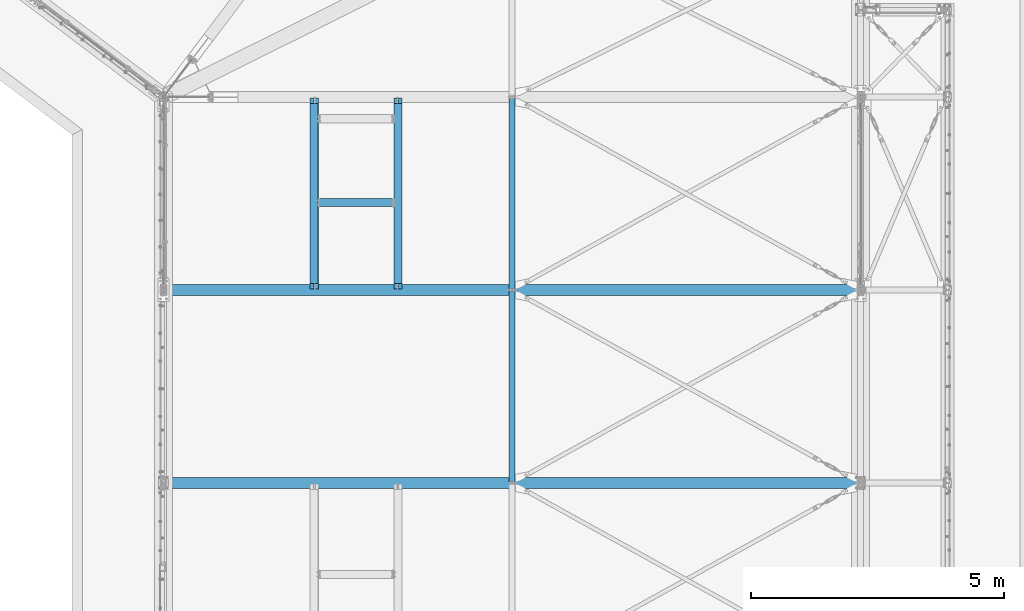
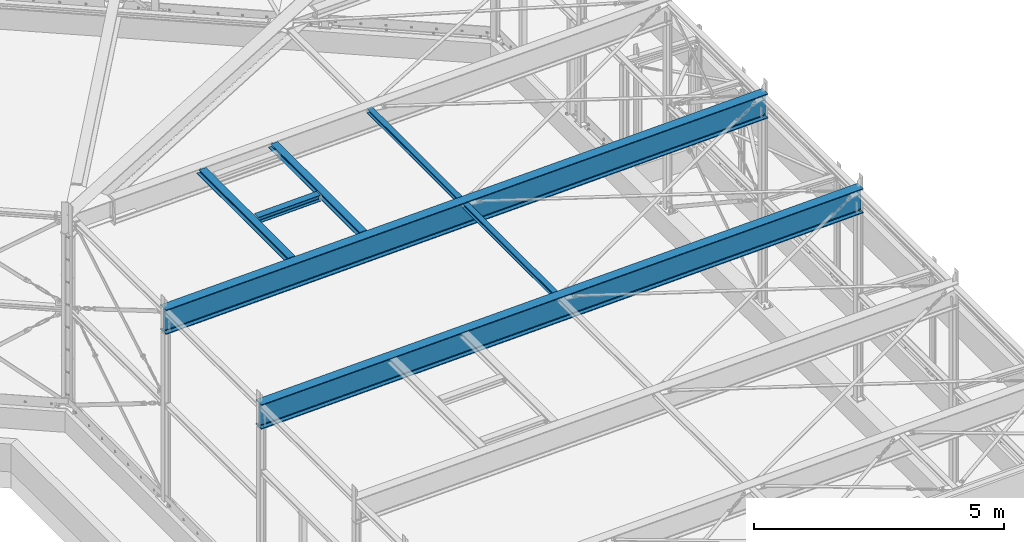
# One storey, part 15 of 476: 4 beams, 3 members, 56 openings.
"""IFC2X3 building model written with IfcOpenShell, lengths in millimetres."""

from ifc_helpers import new_model, entity, si_unit, converted_unit, point, frame, frame_2d, origin, origin_with_axes, origin_2d, origin_2d_with_axis, place, context, project, spatial, circle_curve, line_curve, trimmed, segment, composite_curve, circle, i_section, outline, extrude, clip, halfspace, material, element, save


model = new_model("IFC2X3")

# Units and contexts
model_context = context("Model", 3, precision=1e-09, world=origin_with_axes())
ifc_project = project(units=[si_unit("LENGTHUNIT", "METRE", prefix="MILLI"), si_unit("AREAUNIT", "SQUARE_METRE"), si_unit("VOLUMEUNIT", "CUBIC_METRE"), converted_unit("PLANEANGLEUNIT", "DEGREE", entity("IfcPlaneAngleMeasure", 0.01745329), si_unit("PLANEANGLEUNIT", "RADIAN"), dimensions=[0, 0, 0, 0, 0, 0, 0])], contexts=[model_context])

# Site, building, storey
site_placement = place(None, origin_with_axes())
site = spatial("IfcSite", under=ifc_project, at=site_placement, Name="mKR Teilneubau & Sanierung BA1 - Ostfildern", CompositionType="ELEMENT")
building_placement = place(site_placement, origin_with_axes())
building = spatial("IfcBuilding", under=site, at=building_placement, Name="Struktur 1", CompositionType="ELEMENT")
storey_placement = place(building_placement, origin_with_axes())
storey = spatial("IfcBuildingStorey", under=building, at=storey_placement, Name="Default Storey", CompositionType="ELEMENT", Elevation=0.0)

# Member, openings
ifc_material = material(Name="S235JR")
member_1_placement = place(None, frame((7671.078857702, -13585.67387897, 4959.248116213), z_axis=(-0.999548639, 0.0, -0.030041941), x_axis=(0.0, -1.0, 0.0)))
member_1 = element("IfcMember", 1, at=member_1_placement, inside=storey, material=ifc_material, Name="-", ObjectType="-", context=model_context, shape_type="Clipping", body=[
    clip(clip(extrude(i_section(OverallWidth=220.0, OverallDepth=600.0, WebThickness=12.0, FlangeThickness=19.0, FilletRadius=24.0, at=origin_2d()), origin(), (0.0, 0.0, -1.0), 14725.706361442), halfspace(frame((-13585.67387897, -4970.169003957, -288.847755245), z_axis=(0.0, -0.030041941, -0.999548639), x_axis=(-1.0, 0.0, 0.0)), True)), halfspace(frame((-13585.67387897, -5388.142475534, -14195.565970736), z_axis=(0.0, 0.030041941, 0.999548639), x_axis=(1.0, 0.0, 0.0)), True)),
])
opening_1_placement = place(member_1_placement, frame((-6.5, 183.025662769, -7373.369944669), z_axis=(1.0, 0.0, 0.0), x_axis=(0.0, 1.0, -2.2474e-05)))
element("IfcOpeningElement", 2, at=opening_1_placement, cuts=member_1, ObjectType="Opening", context=model_context, shape_type="SweptSolid", body=[
    extrude(circle(Radius=7.001, at=origin_2d_with_axis()), origin(), (0.0, 0.0, 1.0), 13.0),
])
opening_2_placement = place(member_1_placement, frame((-6.5, 183.024539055, -7433.369944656), z_axis=(1.0, 0.0, 0.0), x_axis=(0.0, 1.0, -2.2474e-05)))
element("IfcOpeningElement", 3, at=opening_2_placement, cuts=member_1, ObjectType="Opening", context=model_context, shape_type="SweptSolid", body=[
    extrude(circle(Radius=7.001, at=origin_2d_with_axis()), origin(), (0.0, 0.0, 1.0), 13.0),
])
opening_3_placement = place(member_1_placement, frame((-6.5, 183.027099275, -14281.485801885), z_axis=(1.0, 0.0, 0.0), x_axis=(0.0, 1.0, 0.0)))
element("IfcOpeningElement", 4, at=opening_3_placement, cuts=member_1, ObjectType="Opening", context=model_context, shape_type="SweptSolid", body=[
    extrude(circle(Radius=7.001, at=origin_2d_with_axis()), origin(), (0.0, 0.0, 1.0), 13.0),
])
opening_4_placement = place(member_1_placement, frame((-6.5, 183.027099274, -14331.485801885), z_axis=(1.0, 0.0, 0.0), x_axis=(0.0, 1.0, 0.0)))
element("IfcOpeningElement", 5, at=opening_4_placement, cuts=member_1, ObjectType="Opening", context=model_context, shape_type="SweptSolid", body=[
    extrude(circle(Radius=7.001, at=origin_2d_with_axis()), origin(), (0.0, 0.0, 1.0), 13.0),
])
opening_5_placement = place(member_1_placement, frame((6.5, 183.027099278, -475.254207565), z_axis=(-1.0, 0.0, 0.0), x_axis=(0.0, 1.0, 0.0)))
element("IfcOpeningElement", 6, at=opening_5_placement, cuts=member_1, ObjectType="Opening", context=model_context, shape_type="SweptSolid", body=[
    extrude(circle(Radius=7.001, at=origin_2d_with_axis()), origin(), (0.0, 0.0, 1.0), 13.0),
])
opening_6_placement = place(member_1_placement, frame((6.5, 183.027099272, -525.254207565), z_axis=(-1.0, 0.0, 0.0), x_axis=(0.0, 1.0, 0.0)))
element("IfcOpeningElement", 7, at=opening_6_placement, cuts=member_1, ObjectType="Opening", context=model_context, shape_type="SweptSolid", body=[
    extrude(circle(Radius=7.001, at=origin_2d_with_axis()), origin(), (0.0, 0.0, 1.0), 13.0),
])
opening_7_placement = place(member_1_placement, frame((52.001, -300.5, -14318.867080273), z_axis=(0.0, -1.0, 0.0), x_axis=(1.0, 0.0, 0.0)))
element("IfcOpeningElement", 8, at=opening_7_placement, cuts=member_1, ObjectType="Opening", context=model_context, shape_type="SweptSolid", body=[
    extrude(circle(Radius=7.001, at=frame_2d((-7.001, 0.0), x_axis=(1.0, 0.0))), origin(), (0.0, 0.0, -1.0), 20.0),
])
opening_8_placement = place(member_1_placement, frame((-37.999, -300.5, -14318.867080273), z_axis=(0.0, -1.0, 0.0), x_axis=(1.0, 0.0, 0.0)))
element("IfcOpeningElement", 9, at=opening_8_placement, cuts=member_1, ObjectType="Opening", context=model_context, shape_type="SweptSolid", body=[
    extrude(circle(Radius=7.001, at=frame_2d((-7.001, 0.0), x_axis=(1.0, 0.0))), origin(), (0.0, 0.0, -1.0), 20.0),
])
opening_9_placement = place(member_1_placement, frame((52.001, -300.5, -14263.867080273), z_axis=(0.0, -1.0, 0.0), x_axis=(1.0, 0.0, 0.0)))
element("IfcOpeningElement", 10, at=opening_9_placement, cuts=member_1, ObjectType="Opening", context=model_context, shape_type="SweptSolid", body=[
    extrude(circle(Radius=7.001, at=frame_2d((-7.001, 0.0), x_axis=(1.0, 0.0))), origin(), (0.0, 0.0, -1.0), 20.0),
])
opening_10_placement = place(member_1_placement, frame((-37.999, -300.5, -14263.867080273), z_axis=(0.0, -1.0, 0.0), x_axis=(1.0, 0.0, 0.0)))
element("IfcOpeningElement", 11, at=opening_10_placement, cuts=member_1, ObjectType="Opening", context=model_context, shape_type="SweptSolid", body=[
    extrude(circle(Radius=7.001, at=frame_2d((-7.001, 0.0), x_axis=(1.0, 0.0))), origin(), (0.0, 0.0, -1.0), 20.0),
])
opening_11_placement = place(member_1_placement, frame((6.5, 247.888062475, -14352.955309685), z_axis=(-1.0, 0.0, 0.0), x_axis=(0.0, 0.030041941, 0.999548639)))
element("IfcOpeningElement", 12, at=opening_11_placement, cuts=member_1, ObjectType="Opening", context=model_context, shape_type="SweptSolid", body=[
    extrude(circle(Radius=7.001, at=origin_2d_with_axis()), origin(), (0.0, 0.0, 1.0), 13.0),
])
opening_12_placement = place(member_1_placement, frame((6.5, -247.888062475, -14338.054506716), z_axis=(-1.0, 0.0, 0.0), x_axis=(0.0, 0.030041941, 0.999548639)))
element("IfcOpeningElement", 13, at=opening_12_placement, cuts=member_1, ObjectType="Opening", context=model_context, shape_type="SweptSolid", body=[
    extrude(circle(Radius=7.001, at=origin_2d_with_axis()), origin(), (0.0, 0.0, 1.0), 13.0),
])
opening_13_placement = place(member_1_placement, frame((37.999, -300.5, -512.635427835), z_axis=(0.0, -1.0, 0.0), x_axis=(1.0, 0.0, 0.0)))
element("IfcOpeningElement", 14, at=opening_13_placement, cuts=member_1, ObjectType="Opening", context=model_context, shape_type="SweptSolid", body=[
    extrude(circle(Radius=7.001, at=frame_2d((7.001, 0.0), x_axis=(1.0, 0.0))), origin(), (0.0, 0.0, -1.0), 20.0),
])
opening_14_placement = place(member_1_placement, frame((-52.001, -300.5, -457.635427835), z_axis=(0.0, -1.0, 0.0), x_axis=(1.0, 0.0, 0.0)))
element("IfcOpeningElement", 15, at=opening_14_placement, cuts=member_1, ObjectType="Opening", context=model_context, shape_type="SweptSolid", body=[
    extrude(circle(Radius=7.001, at=frame_2d((7.001, 0.0), x_axis=(1.0, 0.0))), origin(), (0.0, 0.0, -1.0), 20.0),
])
opening_15_placement = place(member_1_placement, frame((37.999, -300.5, -457.635427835), z_axis=(0.0, -1.0, 0.0), x_axis=(1.0, 0.0, 0.0)))
element("IfcOpeningElement", 16, at=opening_15_placement, cuts=member_1, ObjectType="Opening", context=model_context, shape_type="SweptSolid", body=[
    extrude(circle(Radius=7.001, at=frame_2d((7.001, 0.0), x_axis=(1.0, 0.0))), origin(), (0.0, 0.0, -1.0), 20.0),
])
opening_16_placement = place(member_1_placement, frame((-52.001, -300.5, -512.635427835), z_axis=(0.0, -1.0, 0.0), x_axis=(1.0, 0.0, 0.0)))
element("IfcOpeningElement", 17, at=opening_16_placement, cuts=member_1, ObjectType="Opening", context=model_context, shape_type="SweptSolid", body=[
    extrude(circle(Radius=7.001, at=frame_2d((7.001, 0.0), x_axis=(1.0, 0.0))), origin(), (0.0, 0.0, -1.0), 20.0),
])
opening_17_placement = place(member_1_placement, frame((-6.5, 247.888062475, -457.683526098), z_axis=(1.0, 0.0, 0.0), x_axis=(0.0, -0.030041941, -0.999548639)))
element("IfcOpeningElement", 18, at=opening_17_placement, cuts=member_1, ObjectType="Opening", context=model_context, shape_type="SweptSolid", body=[
    extrude(circle(Radius=7.001, at=origin_2d_with_axis()), origin(), (0.0, 0.0, 1.0), 13.0),
])
opening_18_placement = place(member_1_placement, frame((-6.5, -247.888062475, -442.782723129), z_axis=(1.0, 0.0, 0.0), x_axis=(0.0, -0.030041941, -0.999548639)))
element("IfcOpeningElement", 19, at=opening_18_placement, cuts=member_1, ObjectType="Opening", context=model_context, shape_type="SweptSolid", body=[
    extrude(circle(Radius=7.001, at=origin_2d_with_axis()), origin(), (0.0, 0.0, 1.0), 13.0),
])

member_2_placement = place(None, frame((7671.078857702, -9765.67387897, 4959.248116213), z_axis=(-0.999548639, 0.0, -0.030041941), x_axis=(0.0, -1.0, 0.0)))
member_2 = element("IfcMember", 20, at=member_2_placement, inside=storey, material=ifc_material, Name="-", ObjectType="-", context=model_context, shape_type="Clipping", body=[
    clip(clip(extrude(i_section(OverallWidth=220.0, OverallDepth=600.0, WebThickness=12.0, FlangeThickness=19.0, FilletRadius=24.0, at=origin_2d()), origin(), (0.0, 0.0, -1.0), 14725.706361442), halfspace(frame((-9765.67387897, -4970.169003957, -288.847755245), z_axis=(0.0, -0.030041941, -0.999548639), x_axis=(-1.0, 0.0, 0.0)), True)), halfspace(frame((-9765.67387897, -5388.142475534, -14195.565970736), z_axis=(0.0, 0.030041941, 0.999548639), x_axis=(1.0, 0.0, 0.0)), True)),
])
opening_19_placement = place(member_2_placement, frame((-6.5, 183.025662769, -7373.369944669), z_axis=(1.0, 0.0, 0.0), x_axis=(0.0, 1.0, -2.2474e-05)))
element("IfcOpeningElement", 21, at=opening_19_placement, cuts=member_2, ObjectType="Opening", context=model_context, shape_type="SweptSolid", body=[
    extrude(circle(Radius=7.001, at=origin_2d_with_axis()), origin(), (0.0, 0.0, 1.0), 13.0),
])
opening_20_placement = place(member_2_placement, frame((-6.5, 183.024539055, -7433.369944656), z_axis=(1.0, 0.0, 0.0), x_axis=(0.0, 1.0, -2.2474e-05)))
element("IfcOpeningElement", 22, at=opening_20_placement, cuts=member_2, ObjectType="Opening", context=model_context, shape_type="SweptSolid", body=[
    extrude(circle(Radius=7.001, at=origin_2d_with_axis()), origin(), (0.0, 0.0, 1.0), 13.0),
])
opening_21_placement = place(member_2_placement, frame((-6.5, 183.027099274, -14331.485801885), z_axis=(1.0, 0.0, 0.0), x_axis=(0.0, 1.0, 0.0)))
element("IfcOpeningElement", 23, at=opening_21_placement, cuts=member_2, ObjectType="Opening", context=model_context, shape_type="SweptSolid", body=[
    extrude(circle(Radius=7.001, at=origin_2d_with_axis()), origin(), (0.0, 0.0, 1.0), 13.0),
])
opening_22_placement = place(member_2_placement, frame((-6.5, 183.027099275, -14281.485801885), z_axis=(1.0, 0.0, 0.0), x_axis=(0.0, 1.0, 0.0)))
element("IfcOpeningElement", 24, at=opening_22_placement, cuts=member_2, ObjectType="Opening", context=model_context, shape_type="SweptSolid", body=[
    extrude(circle(Radius=7.001, at=origin_2d_with_axis()), origin(), (0.0, 0.0, 1.0), 13.0),
])
opening_23_placement = place(member_2_placement, frame((6.5, 183.027099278, -475.254207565), z_axis=(-1.0, 0.0, 0.0), x_axis=(0.0, 1.0, 0.0)))
element("IfcOpeningElement", 25, at=opening_23_placement, cuts=member_2, ObjectType="Opening", context=model_context, shape_type="SweptSolid", body=[
    extrude(circle(Radius=7.001, at=origin_2d_with_axis()), origin(), (0.0, 0.0, 1.0), 13.0),
])
opening_24_placement = place(member_2_placement, frame((6.5, 183.027099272, -525.254207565), z_axis=(-1.0, 0.0, 0.0), x_axis=(0.0, 1.0, 0.0)))
element("IfcOpeningElement", 26, at=opening_24_placement, cuts=member_2, ObjectType="Opening", context=model_context, shape_type="SweptSolid", body=[
    extrude(circle(Radius=7.001, at=origin_2d_with_axis()), origin(), (0.0, 0.0, 1.0), 13.0),
])
opening_25_placement = place(member_2_placement, frame((52.001, -300.5, -14318.867080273), z_axis=(0.0, -1.0, 0.0), x_axis=(1.0, 0.0, 0.0)))
element("IfcOpeningElement", 27, at=opening_25_placement, cuts=member_2, ObjectType="Opening", context=model_context, shape_type="SweptSolid", body=[
    extrude(circle(Radius=7.001, at=frame_2d((-7.001, 0.0), x_axis=(1.0, 0.0))), origin(), (0.0, 0.0, -1.0), 20.0),
])
opening_26_placement = place(member_2_placement, frame((-37.999, -300.5, -14318.867080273), z_axis=(0.0, -1.0, 0.0), x_axis=(1.0, 0.0, 0.0)))
element("IfcOpeningElement", 28, at=opening_26_placement, cuts=member_2, ObjectType="Opening", context=model_context, shape_type="SweptSolid", body=[
    extrude(circle(Radius=7.001, at=frame_2d((-7.001, 0.0), x_axis=(1.0, 0.0))), origin(), (0.0, 0.0, -1.0), 20.0),
])
opening_27_placement = place(member_2_placement, frame((52.001, -300.5, -14263.867080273), z_axis=(0.0, -1.0, 0.0), x_axis=(1.0, 0.0, 0.0)))
element("IfcOpeningElement", 29, at=opening_27_placement, cuts=member_2, ObjectType="Opening", context=model_context, shape_type="SweptSolid", body=[
    extrude(circle(Radius=7.001, at=frame_2d((-7.001, 0.0), x_axis=(1.0, 0.0))), origin(), (0.0, 0.0, -1.0), 20.0),
])
opening_28_placement = place(member_2_placement, frame((-37.999, -300.5, -14263.867080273), z_axis=(0.0, -1.0, 0.0), x_axis=(1.0, 0.0, 0.0)))
element("IfcOpeningElement", 30, at=opening_28_placement, cuts=member_2, ObjectType="Opening", context=model_context, shape_type="SweptSolid", body=[
    extrude(circle(Radius=7.001, at=frame_2d((-7.001, 0.0), x_axis=(1.0, 0.0))), origin(), (0.0, 0.0, -1.0), 20.0),
])
opening_29_placement = place(member_2_placement, frame((6.5, 247.888062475, -14352.955309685), z_axis=(-1.0, 0.0, 0.0), x_axis=(0.0, 0.030041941, 0.999548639)))
element("IfcOpeningElement", 31, at=opening_29_placement, cuts=member_2, ObjectType="Opening", context=model_context, shape_type="SweptSolid", body=[
    extrude(circle(Radius=7.001, at=origin_2d_with_axis()), origin(), (0.0, 0.0, 1.0), 13.0),
])
opening_30_placement = place(member_2_placement, frame((6.5, -247.888062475, -14338.054506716), z_axis=(-1.0, 0.0, 0.0), x_axis=(0.0, 0.030041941, 0.999548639)))
element("IfcOpeningElement", 32, at=opening_30_placement, cuts=member_2, ObjectType="Opening", context=model_context, shape_type="SweptSolid", body=[
    extrude(circle(Radius=7.001, at=origin_2d_with_axis()), origin(), (0.0, 0.0, 1.0), 13.0),
])
opening_31_placement = place(member_2_placement, frame((-52.001, -300.5, -457.635427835), z_axis=(0.0, -1.0, 0.0), x_axis=(1.0, 0.0, 0.0)))
element("IfcOpeningElement", 33, at=opening_31_placement, cuts=member_2, ObjectType="Opening", context=model_context, shape_type="SweptSolid", body=[
    extrude(circle(Radius=7.001, at=frame_2d((7.001, 0.0), x_axis=(1.0, 0.0))), origin(), (0.0, 0.0, -1.0), 20.0),
])
opening_32_placement = place(member_2_placement, frame((-52.001, -300.5, -512.635427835), z_axis=(0.0, -1.0, 0.0), x_axis=(1.0, 0.0, 0.0)))
element("IfcOpeningElement", 34, at=opening_32_placement, cuts=member_2, ObjectType="Opening", context=model_context, shape_type="SweptSolid", body=[
    extrude(circle(Radius=7.001, at=frame_2d((7.001, 0.0), x_axis=(1.0, 0.0))), origin(), (0.0, 0.0, -1.0), 20.0),
])
opening_33_placement = place(member_2_placement, frame((37.999, -300.5, -512.635427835), z_axis=(0.0, -1.0, 0.0), x_axis=(1.0, 0.0, 0.0)))
element("IfcOpeningElement", 35, at=opening_33_placement, cuts=member_2, ObjectType="Opening", context=model_context, shape_type="SweptSolid", body=[
    extrude(circle(Radius=7.001, at=frame_2d((7.001, 0.0), x_axis=(1.0, 0.0))), origin(), (0.0, 0.0, -1.0), 20.0),
])
opening_34_placement = place(member_2_placement, frame((37.999, -300.5, -457.635427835), z_axis=(0.0, -1.0, 0.0), x_axis=(1.0, 0.0, 0.0)))
element("IfcOpeningElement", 36, at=opening_34_placement, cuts=member_2, ObjectType="Opening", context=model_context, shape_type="SweptSolid", body=[
    extrude(circle(Radius=7.001, at=frame_2d((7.001, 0.0), x_axis=(1.0, 0.0))), origin(), (0.0, 0.0, -1.0), 20.0),
])
opening_35_placement = place(member_2_placement, frame((-6.5, 247.888062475, -457.683526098), z_axis=(1.0, 0.0, 0.0), x_axis=(0.0, -0.030041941, -0.999548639)))
element("IfcOpeningElement", 37, at=opening_35_placement, cuts=member_2, ObjectType="Opening", context=model_context, shape_type="SweptSolid", body=[
    extrude(circle(Radius=7.001, at=origin_2d_with_axis()), origin(), (0.0, 0.0, 1.0), 13.0),
])
opening_36_placement = place(member_2_placement, frame((-6.5, -247.888062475, -442.782723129), z_axis=(1.0, 0.0, 0.0), x_axis=(0.0, -0.030041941, -0.999548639)))
element("IfcOpeningElement", 38, at=opening_36_placement, cuts=member_2, ObjectType="Opening", context=model_context, shape_type="SweptSolid", body=[
    extrude(circle(Radius=7.001, at=origin_2d_with_axis()), origin(), (0.0, 0.0, 1.0), 13.0),
])

# Beam, openings
beam_1_placement = place(None, frame((11149.93692185, -5838.328965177, 5287.906492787), z_axis=(0.0, -1.0, 0.0), x_axis=(0.999549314, 0.0, 0.030019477)))
beam_1 = element("IfcBeam", 39, at=beam_1_placement, inside=storey, material=ifc_material, Name="-", ObjectType="-", context=model_context, shape_type="Clipping", body=[
    clip(clip(extrude(i_section(OverallWidth=160.0, OverallDepth=152.0, WebThickness=6.0, FlangeThickness=9.0, FilletRadius=15.0, at=origin_2d()), origin(), (0.0, 0.0, 1.0), 4037.689827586), halfspace(frame((-11303.65198964, -4950.808028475, 3906.343913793), z_axis=(0.0, 0.0, -1.0), x_axis=(-0.999549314, 0.030019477, 0.0)), True)), halfspace(frame((-11303.65198964, -4950.808028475, 131.345913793), z_axis=(0.0, 0.0, 1.0), x_axis=(0.999549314, -0.030019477, 0.0)), True)),
])
opening_37_placement = place(beam_1_placement, frame((-1500.0, 42.001617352, 3907.144913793), z_axis=(-1.0, 0.0, 0.0), x_axis=(0.0, 1.0, 0.0)))
element("IfcOpeningElement", 40, at=opening_37_placement, cuts=beam_1, ObjectType="Opening", context=model_context, shape_type="SweptSolid", body=[
    extrude(outline(composite_curve([segment(trimmed(line_curve((0.0, 0.0), (1.0, 0.0), 34.798382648), [point((0.0, 0.0))], [point((34.798382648, 0.0))], True, "CARTESIAN"), True, "CONTINUOUS"), segment(trimmed(line_curve((34.798382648, 0.0), (0.0, 1.0), 104.8), [point((34.798382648, 0.0))], [point((34.798382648, 104.8))], True, "CARTESIAN"), True, "CONTINUOUS"), segment(trimmed(line_curve((34.798382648, 104.8), (-1.0, 0.0), 24.798382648), [point((34.798382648, 104.8))], [point((10.0, 104.8))], True, "CARTESIAN"), True, "CONTINUOUS"), segment(trimmed(circle_curve(frame_2d((10.0, 94.8), x_axis=(1.0, 0.0)), 10.0), [point((10.0, 104.8))], [point((0.0, 94.8))], True, "CARTESIAN"), True, "CONTINUOUS"), segment(trimmed(line_curve((0.0, 94.8), (0.0, -1.0), 94.8), [point((0.0, 94.8))], [point((0.0, 0.0))], True, "CARTESIAN"), True, "CONTINUOUS")], self_intersect=False)), origin(), (0.0, 0.0, -1.0), 3000.0),
])
opening_38_placement = place(beam_1_placement, frame((1500.0, 42.001617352, 130.544913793), z_axis=(1.0, 0.0, 0.0), x_axis=(0.0, 1.0, 0.0)))
element("IfcOpeningElement", 41, at=opening_38_placement, cuts=beam_1, ObjectType="Opening", context=model_context, shape_type="SweptSolid", body=[
    extrude(outline(composite_curve([segment(trimmed(line_curve((0.0, 0.0), (1.0, 0.0), 34.798382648), [point((0.0, 0.0))], [point((34.798382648, 0.0))], True, "CARTESIAN"), True, "CONTINUOUS"), segment(trimmed(line_curve((34.798382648, 0.0), (0.0, 1.0), 104.8), [point((34.798382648, 0.0))], [point((34.798382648, 104.8))], True, "CARTESIAN"), True, "CONTINUOUS"), segment(trimmed(line_curve((34.798382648, 104.8), (-1.0, 0.0), 24.798382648), [point((34.798382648, 104.8))], [point((10.0, 104.8))], True, "CARTESIAN"), True, "CONTINUOUS"), segment(trimmed(circle_curve(frame_2d((10.0, 94.8), x_axis=(1.0, 0.0)), 10.0), [point((10.0, 104.8))], [point((0.0, 94.8))], True, "CARTESIAN"), True, "CONTINUOUS"), segment(trimmed(line_curve((0.0, 94.8), (0.0, -1.0), 94.8), [point((0.0, 94.8))], [point((0.0, 0.0))], True, "CARTESIAN"), True, "CONTINUOUS")], self_intersect=False)), origin(), (0.0, 0.0, -1.0), 3000.0),
])
opening_39_placement = place(beam_1_placement, frame((-3.5, -22.998382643, 3838.345913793), z_axis=(-1.0, 0.0, 0.0), x_axis=(0.0, -1.0, 0.0)))
element("IfcOpeningElement", 42, at=opening_39_placement, cuts=beam_1, ObjectType="Opening", context=model_context, shape_type="SweptSolid", body=[
    extrude(circle(Radius=7.001, at=frame_2d((0.0, -7.001), x_axis=(1.0, 0.0))), origin(), (0.0, 0.0, -1.0), 7.0),
])
opening_40_placement = place(beam_1_placement, frame((-3.5, -22.998382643, 3888.345913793), z_axis=(-1.0, 0.0, 0.0), x_axis=(0.0, -1.0, 0.0)))
element("IfcOpeningElement", 43, at=opening_40_placement, cuts=beam_1, ObjectType="Opening", context=model_context, shape_type="SweptSolid", body=[
    extrude(circle(Radius=7.001, at=frame_2d((0.0, -7.001), x_axis=(1.0, 0.0))), origin(), (0.0, 0.0, -1.0), 7.0),
])
opening_41_placement = place(beam_1_placement, frame((-3.5, 17.001617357, 3838.345913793), z_axis=(-1.0, 0.0, 0.0), x_axis=(0.0, -1.0, 0.0)))
element("IfcOpeningElement", 44, at=opening_41_placement, cuts=beam_1, ObjectType="Opening", context=model_context, shape_type="SweptSolid", body=[
    extrude(circle(Radius=7.001, at=frame_2d((0.0, -7.001), x_axis=(1.0, 0.0))), origin(), (0.0, 0.0, -1.0), 7.0),
])
opening_42_placement = place(beam_1_placement, frame((-3.5, 17.001617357, 3888.345913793), z_axis=(-1.0, 0.0, 0.0), x_axis=(0.0, -1.0, 0.0)))
element("IfcOpeningElement", 45, at=opening_42_placement, cuts=beam_1, ObjectType="Opening", context=model_context, shape_type="SweptSolid", body=[
    extrude(circle(Radius=7.001, at=frame_2d((0.0, -7.001), x_axis=(1.0, 0.0))), origin(), (0.0, 0.0, -1.0), 7.0),
])
opening_43_placement = place(beam_1_placement, frame((-3.5, 17.001617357, 156.344913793), z_axis=(1.0, 0.0, 0.0), x_axis=(0.0, 0.0, 1.0)))
element("IfcOpeningElement", 46, at=opening_43_placement, cuts=beam_1, ObjectType="Opening", context=model_context, shape_type="SweptSolid", body=[
    extrude(circle(Radius=7.001, at=frame_2d((50.0, 40.0), x_axis=(1.0, 0.0))), origin(), (0.0, 0.0, 1.0), 7.0),
])
opening_44_placement = place(beam_1_placement, frame((-3.5, 17.001617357, 156.344913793), z_axis=(1.0, 0.0, 0.0), x_axis=(0.0, 0.0, 1.0)))
element("IfcOpeningElement", 47, at=opening_44_placement, cuts=beam_1, ObjectType="Opening", context=model_context, shape_type="SweptSolid", body=[
    extrude(circle(Radius=7.001, at=frame_2d((0.0, 40.0), x_axis=(1.0, 0.0))), origin(), (0.0, 0.0, 1.0), 7.0),
])
opening_45_placement = place(beam_1_placement, frame((-3.5, 17.001617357, 156.344913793), z_axis=(1.0, 0.0, 0.0), x_axis=(0.0, 0.0, 1.0)))
element("IfcOpeningElement", 48, at=opening_45_placement, cuts=beam_1, ObjectType="Opening", context=model_context, shape_type="SweptSolid", body=[
    extrude(circle(Radius=7.001, at=frame_2d((50.0, 0.0), x_axis=(1.0, 0.0))), origin(), (0.0, 0.0, 1.0), 7.0),
])
opening_46_placement = place(beam_1_placement, frame((-3.5, 17.001617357, 156.344913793), z_axis=(1.0, 0.0, 0.0), x_axis=(0.0, 0.0, 1.0)))
element("IfcOpeningElement", 49, at=opening_46_placement, cuts=beam_1, ObjectType="Opening", context=model_context, shape_type="SweptSolid", body=[
    extrude(circle(Radius=7.001, at=origin_2d_with_axis()), origin(), (0.0, 0.0, 1.0), 7.0),
])

# Member
member_3_placement = place(None, frame((12919.483965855, -8035.673034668, 5341.051321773), z_axis=(-0.999549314, 0.0, -0.030019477), x_axis=(0.0, -1.0, 0.0)))
element("IfcMember", 50, at=member_3_placement, inside=storey, material=ifc_material, Name="-", ObjectType="-", context=model_context, shape_type="Clipping", body=[
    clip(clip(extrude(i_section(OverallWidth=160.0, OverallDepth=152.0, WebThickness=6.0, FlangeThickness=9.0, FilletRadius=15.0, at=origin_2d()), origin(), (0.0, 0.0, 1.0), 1880.689827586), halfspace(frame((-8035.673034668, -4950.808028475, 220.345913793), z_axis=(0.0, 0.0, 1.0), x_axis=(1.0, 0.0, 0.0)), True)), halfspace(frame((-8035.673034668, -4950.808028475, 1660.343913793), z_axis=(0.0, 0.0, -1.0), x_axis=(-1.0, 0.0, 0.0)), True)),
])

# Beams
beam_2_placement = place(None, frame((15065.608780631, -5865.915193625, 5364.602213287), z_axis=(0.0, 1.0, 0.0), x_axis=(-0.999549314, 0.0, -0.030019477)))
element("IfcBeam", 51, at=beam_2_placement, inside=storey, material=ifc_material, Name="-", ObjectType="-", context=model_context, shape_type="Clipping", body=[
    clip(clip(extrude(i_section(OverallWidth=120.0, OverallDepth=114.0, WebThickness=5.0, FlangeThickness=8.0, FilletRadius=12.0, at=origin_2d()), origin(), (0.0, 0.0, -1.0), 3982.51737069), halfspace(frame((15219.861475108, -4909.922760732, -100.759685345), z_axis=(0.0, 0.0, -1.0), x_axis=(-0.999549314, -0.030019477, 0.0)), True)), halfspace(frame((15219.861475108, -4909.922760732, -3881.757685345), z_axis=(0.0, 0.0, 1.0), x_axis=(0.999549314, 0.030019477, 0.0)), True)),
])
beam_3_placement = place(None, frame((15065.608780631, -9682.915193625, 5364.602213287), z_axis=(0.0, 1.0, 0.0), x_axis=(-0.999549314, 0.0, -0.030019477)))
element("IfcBeam", 52, at=beam_3_placement, inside=storey, material=ifc_material, Name="-", ObjectType="-", context=model_context, shape_type="Clipping", body=[
    clip(clip(extrude(i_section(OverallWidth=120.0, OverallDepth=114.0, WebThickness=5.0, FlangeThickness=8.0, FilletRadius=12.0, at=origin_2d()), origin(), (0.0, 0.0, -1.0), 3985.51737069), halfspace(frame((15219.861475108, -4909.922760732, -100.759685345), z_axis=(0.0, 0.0, -1.0), x_axis=(-0.999549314, -0.030019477, 0.0)), True)), halfspace(frame((15219.861475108, -4909.922760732, -3884.757685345), z_axis=(0.0, 0.0, 1.0), x_axis=(0.999549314, 0.030019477, 0.0)), True)),
])

# Beam, openings
beam_4_placement = place(None, frame((12809.188782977, -5838.328965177, 5337.738825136), z_axis=(0.0, 1.0, 0.0), x_axis=(-0.999549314, 0.0, -0.030019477)))
beam_4 = element("IfcBeam", 53, at=beam_4_placement, inside=storey, material=ifc_material, Name="-", ObjectType="-", context=model_context, shape_type="Clipping", body=[
    clip(clip(extrude(i_section(OverallWidth=160.0, OverallDepth=152.0, WebThickness=6.0, FlangeThickness=9.0, FilletRadius=15.0, at=origin_2d()), origin(), (0.0, 0.0, -1.0), 4037.689827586), halfspace(frame((12963.65198964, -4950.808028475, -131.345913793), z_axis=(0.0, 0.0, -1.0), x_axis=(-0.999549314, -0.030019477, 0.0)), True)), halfspace(frame((12963.65198964, -4950.808028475, -3906.343913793), z_axis=(0.0, 0.0, 1.0), x_axis=(0.999549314, 0.030019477, 0.0)), True)),
])
opening_47_placement = place(beam_4_placement, frame((1500.0, 0.0, -110.344913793), z_axis=(-1.0, 0.0, 0.0), x_axis=(0.0, 0.0, 1.0)))
element("IfcOpeningElement", 54, at=opening_47_placement, cuts=beam_4, ObjectType="Opening", context=model_context, shape_type="SweptSolid", body=[
    extrude(outline(composite_curve([segment(trimmed(line_curve((-20.2, 42.038924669), (0.0, 1.0), 34.761075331), [point((-20.2, 42.038924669))], [point((-20.2, 76.8))], True, "CARTESIAN"), True, "CONTINUOUS"), segment(trimmed(line_curve((-20.2, 76.8), (-1.0, 0.0), 104.8), [point((-20.2, 76.8))], [point((-125.0, 76.8))], True, "CARTESIAN"), True, "CONTINUOUS"), segment(trimmed(line_curve((-125.0, 76.8), (0.0, -1.0), 24.761075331), [point((-125.0, 76.8))], [point((-125.0, 52.038924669))], True, "CARTESIAN"), True, "CONTINUOUS"), segment(trimmed(circle_curve(frame_2d((-115.0, 52.038924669), x_axis=(1.0, 0.0)), 10.0), [point((-125.0, 52.038924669))], [point((-115.0, 42.038924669))], True, "CARTESIAN"), True, "CONTINUOUS"), segment(trimmed(line_curve((-115.0, 42.038924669), (1.0, 0.0), 94.8), [point((-115.0, 42.038924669))], [point((-20.2, 42.038924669))], True, "CARTESIAN"), True, "CONTINUOUS")], self_intersect=False)), origin(), (0.0, 0.0, 1.0), 3000.0),
])
opening_48_placement = place(beam_4_placement, frame((-1500.0, 0.0, -3927.344913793), z_axis=(1.0, 0.0, 0.0), x_axis=(0.0, 0.0, -1.0)))
element("IfcOpeningElement", 55, at=opening_48_placement, cuts=beam_4, ObjectType="Opening", context=model_context, shape_type="SweptSolid", body=[
    extrude(outline(composite_curve([segment(trimmed(line_curve((-20.2, 42.038924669), (0.0, 1.0), 34.761075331), [point((-20.2, 42.038924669))], [point((-20.2, 76.8))], True, "CARTESIAN"), True, "CONTINUOUS"), segment(trimmed(line_curve((-20.2, 76.8), (-1.0, 0.0), 104.8), [point((-20.2, 76.8))], [point((-125.0, 76.8))], True, "CARTESIAN"), True, "CONTINUOUS"), segment(trimmed(line_curve((-125.0, 76.8), (0.0, -1.0), 24.761075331), [point((-125.0, 76.8))], [point((-125.0, 52.038924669))], True, "CARTESIAN"), True, "CONTINUOUS"), segment(trimmed(circle_curve(frame_2d((-115.0, 52.038924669), x_axis=(1.0, 0.0)), 10.0), [point((-125.0, 52.038924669))], [point((-115.0, 42.038924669))], True, "CARTESIAN"), True, "CONTINUOUS"), segment(trimmed(line_curve((-115.0, 42.038924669), (1.0, 0.0), 94.8), [point((-115.0, 42.038924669))], [point((-20.2, 42.038924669))], True, "CARTESIAN"), True, "CONTINUOUS")], self_intersect=False)), origin(), (0.0, 0.0, 1.0), 3000.0),
])
opening_49_placement = place(beam_4_placement, frame((3.5, 17.038924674, -156.344913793), z_axis=(-1.0, 0.0, 0.0), x_axis=(0.0, 0.0, -1.0)))
element("IfcOpeningElement", 56, at=opening_49_placement, cuts=beam_4, ObjectType="Opening", context=model_context, shape_type="SweptSolid", body=[
    extrude(circle(Radius=7.001, at=frame_2d((50.0, 40.0), x_axis=(1.0, 0.0))), origin(), (0.0, 0.0, 1.0), 7.0),
])
opening_50_placement = place(beam_4_placement, frame((3.5, 17.038924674, -156.344913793), z_axis=(-1.0, 0.0, 0.0), x_axis=(0.0, 0.0, -1.0)))
element("IfcOpeningElement", 57, at=opening_50_placement, cuts=beam_4, ObjectType="Opening", context=model_context, shape_type="SweptSolid", body=[
    extrude(circle(Radius=7.001, at=frame_2d((0.0, 40.0), x_axis=(1.0, 0.0))), origin(), (0.0, 0.0, 1.0), 7.0),
])
opening_51_placement = place(beam_4_placement, frame((3.5, 17.038924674, -156.344913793), z_axis=(-1.0, 0.0, 0.0), x_axis=(0.0, 0.0, -1.0)))
element("IfcOpeningElement", 58, at=opening_51_placement, cuts=beam_4, ObjectType="Opening", context=model_context, shape_type="SweptSolid", body=[
    extrude(circle(Radius=7.001, at=frame_2d((50.0, 0.0), x_axis=(1.0, 0.0))), origin(), (0.0, 0.0, 1.0), 7.0),
])
opening_52_placement = place(beam_4_placement, frame((3.5, 17.038924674, -156.344913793), z_axis=(-1.0, 0.0, 0.0), x_axis=(0.0, 0.0, -1.0)))
element("IfcOpeningElement", 59, at=opening_52_placement, cuts=beam_4, ObjectType="Opening", context=model_context, shape_type="SweptSolid", body=[
    extrude(circle(Radius=7.001, at=origin_2d_with_axis()), origin(), (0.0, 0.0, 1.0), 7.0),
])
opening_53_placement = place(beam_4_placement, frame((3.5, -22.961075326, -3838.345913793), z_axis=(1.0, 0.0, 0.0), x_axis=(0.0, 1.0, 0.0)))
element("IfcOpeningElement", 60, at=opening_53_placement, cuts=beam_4, ObjectType="Opening", context=model_context, shape_type="SweptSolid", body=[
    extrude(circle(Radius=7.001, at=frame_2d((0.0, 7.001), x_axis=(1.0, 0.0))), origin(), (0.0, 0.0, -1.0), 7.0),
])
opening_54_placement = place(beam_4_placement, frame((3.5, -22.961075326, -3888.345913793), z_axis=(1.0, 0.0, 0.0), x_axis=(0.0, 1.0, 0.0)))
element("IfcOpeningElement", 61, at=opening_54_placement, cuts=beam_4, ObjectType="Opening", context=model_context, shape_type="SweptSolid", body=[
    extrude(circle(Radius=7.001, at=frame_2d((0.0, 7.001), x_axis=(1.0, 0.0))), origin(), (0.0, 0.0, -1.0), 7.0),
])
opening_55_placement = place(beam_4_placement, frame((3.5, 17.038924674, -3838.345913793), z_axis=(1.0, 0.0, 0.0), x_axis=(0.0, 1.0, 0.0)))
element("IfcOpeningElement", 62, at=opening_55_placement, cuts=beam_4, ObjectType="Opening", context=model_context, shape_type="SweptSolid", body=[
    extrude(circle(Radius=7.001, at=frame_2d((0.0, 7.001), x_axis=(1.0, 0.0))), origin(), (0.0, 0.0, -1.0), 7.0),
])
opening_56_placement = place(beam_4_placement, frame((3.5, 17.038924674, -3888.345913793), z_axis=(1.0, 0.0, 0.0), x_axis=(0.0, 1.0, 0.0)))
element("IfcOpeningElement", 63, at=opening_56_placement, cuts=beam_4, ObjectType="Opening", context=model_context, shape_type="SweptSolid", body=[
    extrude(circle(Radius=7.001, at=frame_2d((0.0, 7.001), x_axis=(1.0, 0.0))), origin(), (0.0, 0.0, -1.0), 7.0),
])

save(model, "model.ifc")
